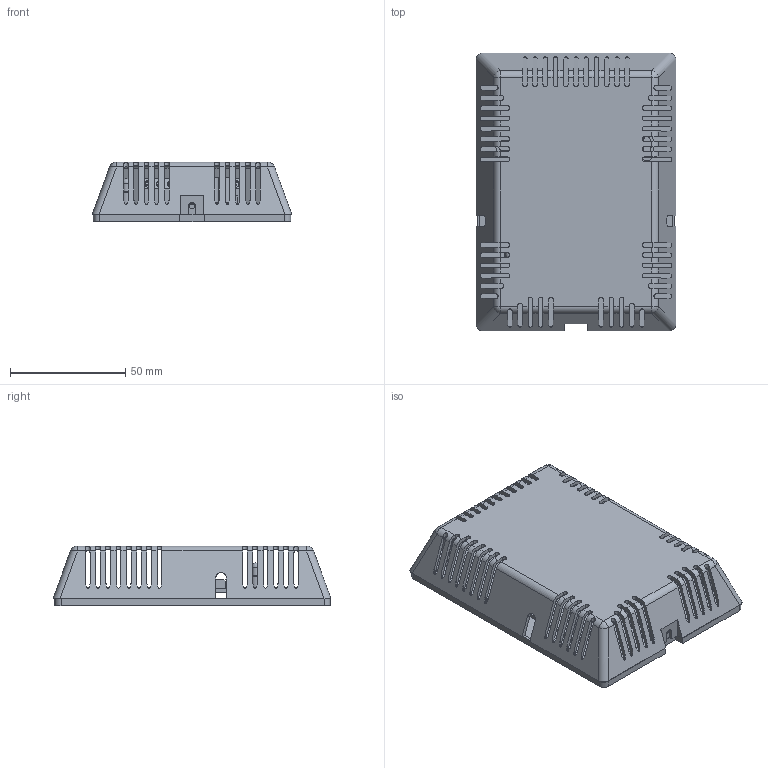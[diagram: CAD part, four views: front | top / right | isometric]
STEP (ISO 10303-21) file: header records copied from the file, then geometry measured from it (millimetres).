
FILE_DESCRIPTION(/* description */ (''),/* implementation_level */ '2;1');
FILE_NAME(/* name */ 'D:\MCS - SERVER ORGANIZATION\Drawings - Mcs Hardware\Boards & Electrical Parts\MCS-HUMD-II\MCS-HUMD-II.stp',/* time_stamp */ '2015-09-25T15:15:55-04:00',/* author */ ('Ian L Mitchell'),/* organization */ (''),/* preprocessor_version */ 'ST-DEVELOPER v15.2',/* originating_system */ 'Autodesk Inventor 2014',/* authorisation */ '');
FILE_SCHEMA (('AUTOMOTIVE_DESIGN { 1 0 10303 214 3 1 1 }'));
Length unit declared in the file: inch
Products named in the file (1): MCS-HUMD-II
Bounding box: 86.74 x 120.65 x 25.91 mm (x, y, z)
Volume: 47755.6 mm3; surface area: 62834.6 mm2
Topology: 3 solids, 3 shells, 727 faces, 2295 edges, 1510 vertices
Faces by surface type: plane 458, cylinder 251, sphere 9, torus 5, bspline 4
Full cylindrical faces by diameter (mm): 2.54 x4, 3.493 x8, 3.556 x3, 3.81 x1, 5.08 x7, 5.537 x3, 12.7 x2
Entity records: 25394 total; most frequent: CARTESIAN_POINT 4686, ORIENTED_EDGE 4474, DIRECTION 4221, EDGE_CURVE 2237, LINE 1677, VECTOR 1677, VERTEX_POINT 1486, AXIS2_PLACEMENT_3D 1272
